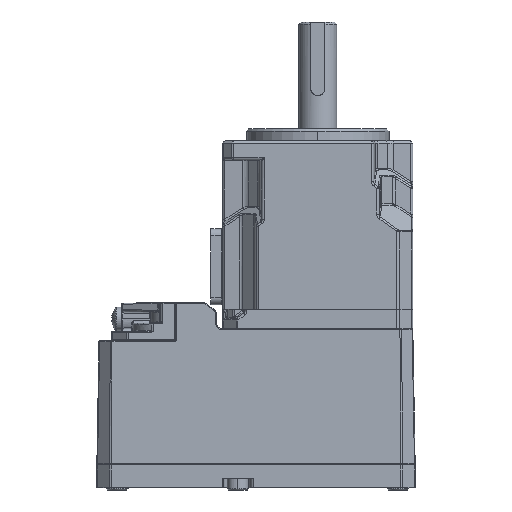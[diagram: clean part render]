
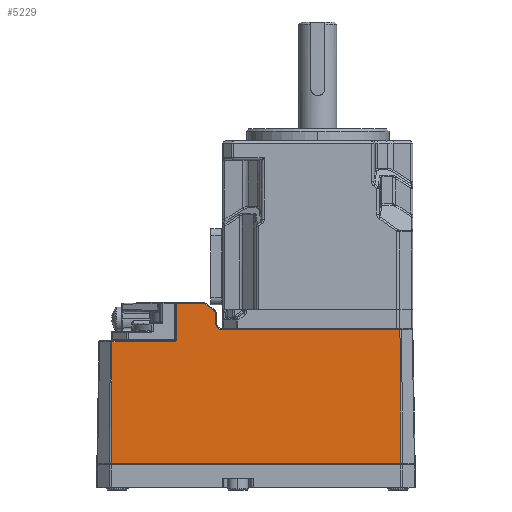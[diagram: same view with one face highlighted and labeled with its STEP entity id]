
A CAD part, left-side view. The second image highlights one B-rep face of the part: STEP entity #5229.
In plain terms, the highlighted planar face has unit normal (-1, 0, 0.018).
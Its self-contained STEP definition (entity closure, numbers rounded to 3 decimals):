
#173 = DIRECTION ( 'NONE',  ( -0.017, 0.007, -1. ) ) ;
#663 = CARTESIAN_POINT ( 'NONE',  ( -20., 0., -44.7 ) ) ;
#1199 = LINE ( 'NONE', #41409, #22582 ) ;
#1252 = CARTESIAN_POINT ( 'NONE',  ( -20.003, 0., -44.897 ) ) ;
#3086 = LINE ( 'NONE', #22280, #45761 ) ;
#3983 = AXIS2_PLACEMENT_3D ( 'NONE', #663, #18712, #14023 ) ;
#4138 = CARTESIAN_POINT ( 'NONE',  ( -20.003, -17.294, -44.897 ) ) ;
#4382 = VERTEX_POINT ( 'NONE', #27286 ) ;
#4420 = VERTEX_POINT ( 'NONE', #21986 ) ;
#4945 = EDGE_CURVE ( 'NONE', #4382, #46151, #34841, .T. ) ;
#5063 = ORIENTED_EDGE ( 'NONE', *, *, #21056, .T. ) ;
#5229 = ADVANCED_FACE ( 'NONE', ( #47985 ), #31745, .T. ) ;
#6564 = CARTESIAN_POINT ( 'NONE',  ( -20.045, 29.8, -47.272 ) ) ;
#6844 = CARTESIAN_POINT ( 'NONE',  ( -19.943, 21.578, -41.44 ) ) ;
#7163 = VERTEX_POINT ( 'NONE', #52032 ) ;
#7391 = DIRECTION ( 'NONE',  ( -0.017, 0., -1. ) ) ;
#7797 =( BOUNDED_CURVE ( )  B_SPLINE_CURVE ( 3, ( #44459, #58020, #17593, #8759 ),
 .UNSPECIFIED., .F., .T. ) 
 B_SPLINE_CURVE_WITH_KNOTS ( ( 4, 4 ),
 ( 2.531, 3.142 ),
 .UNSPECIFIED. ) 
 CURVE ( )  GEOMETRIC_REPRESENTATION_ITEM ( )  RATIONAL_B_SPLINE_CURVE ( ( 1., 0.969, 0.969, 1. ) ) 
 REPRESENTATION_ITEM ( '' )  );
#7890 = ORIENTED_EDGE ( 'NONE', *, *, #37694, .T. ) ;
#8157 = ORIENTED_EDGE ( 'NONE', *, *, #26620, .T. ) ;
#8759 = CARTESIAN_POINT ( 'NONE',  ( -19.907, 24.215, -39.397 ) ) ;
#8823 = EDGE_CURVE ( 'NONE', #7163, #45334, #23991, .T. ) ;
#9658 = VERTEX_POINT ( 'NONE', #45869 ) ;
#9703 = EDGE_CURVE ( 'NONE', #4420, #38933, #1199, .T. ) ;
#10709 = CARTESIAN_POINT ( 'NONE',  ( -20.047, 29.923, -47.396 ) ) ;
#10924 = DIRECTION ( 'NONE',  ( 0.017, 0.007, 1. ) ) ;
#11735 = VERTEX_POINT ( 'NONE', #18950 ) ;
#12445 = VERTEX_POINT ( 'NONE', #56119 ) ;
#13130 = DIRECTION ( 'NONE',  ( 0., 1., 0. ) ) ;
#13421 = ORIENTED_EDGE ( 'NONE', *, *, #8823, .T. ) ;
#13562 = LINE ( 'NONE', #31278, #38061 ) ;
#14023 = DIRECTION ( 'NONE',  ( 0.017, 0., 1. ) ) ;
#15396 = CARTESIAN_POINT ( 'NONE',  ( -19.943, 21.578, -41.444 ) ) ;
#16188 = LINE ( 'NONE', #29500, #37607 ) ;
#16939 = CARTESIAN_POINT ( 'NONE',  ( -19.995, 21.415, -44.434 ) ) ;
#17112 = VERTEX_POINT ( 'NONE', #45620 ) ;
#17448 = ORIENTED_EDGE ( 'NONE', *, *, #56722, .T. ) ;
#17593 = CARTESIAN_POINT ( 'NONE',  ( -19.907, 24.05, -39.397 ) ) ;
#17595 = DIRECTION ( 'NONE',  ( 0., 1., -0.009 ) ) ;
#18027 = ORIENTED_EDGE ( 'NONE', *, *, #35030, .T. ) ;
#18712 = DIRECTION ( 'NONE',  ( -1., 0., 0.017 ) ) ;
#18950 = CARTESIAN_POINT ( 'NONE',  ( -19.91, 23.756, -39.541 ) ) ;
#20334 = EDGE_CURVE ( 'NONE', #17112, #4382, #3086, .T. ) ;
#21056 = EDGE_CURVE ( 'NONE', #12445, #11735, #35572, .T. ) ;
#21074 = ORIENTED_EDGE ( 'NONE', *, *, #43612, .T. ) ;
#21375 = CARTESIAN_POINT ( 'NONE',  ( -20.003, 20.253, -44.897 ) ) ;
#21986 = CARTESIAN_POINT ( 'NONE',  ( -20.496, 43.498, -73.098 ) ) ;
#22051 = VERTEX_POINT ( 'NONE', #4138 ) ;
#22280 = CARTESIAN_POINT ( 'NONE',  ( -19.907, 29.8, -39.397 ) ) ;
#22582 = VECTOR ( 'NONE', #55268, 1000. ) ;
#23991 = LINE ( 'NONE', #15396, #46035 ) ;
#25969 = EDGE_CURVE ( 'NONE', #11735, #17112, #7797, .T. ) ;
#26620 = EDGE_CURVE ( 'NONE', #35447, #31334, #58023, .T. ) ;
#27072 = CARTESIAN_POINT ( 'NONE',  ( -20.042, 29.8, -47.097 ) ) ;
#27126 = ORIENTED_EDGE ( 'NONE', *, *, #25969, .T. ) ;
#27267 = EDGE_CURVE ( 'NONE', #46151, #35447, #46609, .T. ) ;
#27286 = CARTESIAN_POINT ( 'NONE',  ( -19.907, 29.8, -39.397 ) ) ;
#29500 = CARTESIAN_POINT ( 'NONE',  ( -19.998, -17.292, -44.575 ) ) ;
#29796 = VECTOR ( 'NONE', #33773, 1000. ) ;
#31278 = CARTESIAN_POINT ( 'NONE',  ( -19.995, 43.291, -44.387 ) ) ;
#31334 = VERTEX_POINT ( 'NONE', #40006 ) ;
#31435 = DIRECTION ( 'NONE',  ( 0.01, 0.819, 0.574 ) ) ;
#31745 = PLANE ( 'NONE',  #3983 ) ;
#31983 =( BOUNDED_CURVE ( )  B_SPLINE_CURVE ( 3, ( #6844, #52004, #38737, #56718 ),
 .UNSPECIFIED., .F., .T. ) 
 B_SPLINE_CURVE_WITH_KNOTS ( ( 4, 4 ),
 ( 1.625, 2.531 ),
 .UNSPECIFIED. ) 
 CURVE ( )  GEOMETRIC_REPRESENTATION_ITEM ( )  RATIONAL_B_SPLINE_CURVE ( ( 1., 0.933, 0.933, 1. ) ) 
 REPRESENTATION_ITEM ( '' )  );
#32233 =( BOUNDED_CURVE ( )  B_SPLINE_CURVE ( 3, ( #21375, #39413, #16939, #52953 ),
 .UNSPECIFIED., .F., .T. ) 
 B_SPLINE_CURVE_WITH_KNOTS ( ( 4, 4 ),
 ( 0., 1.516 ),
 .UNSPECIFIED. ) 
 CURVE ( )  GEOMETRIC_REPRESENTATION_ITEM ( )  RATIONAL_B_SPLINE_CURVE ( ( 1., 0.817, 0.817, 1. ) ) 
 REPRESENTATION_ITEM ( '' )  );
#33773 = DIRECTION ( 'NONE',  ( 0., 1., 0. ) ) ;
#34261 = CARTESIAN_POINT ( 'NONE',  ( -20., 29.8, -44.7 ) ) ;
#34841 = LINE ( 'NONE', #34261, #51974 ) ;
#35030 = EDGE_CURVE ( 'NONE', #38933, #22051, #16188, .T. ) ;
#35395 = ORIENTED_EDGE ( 'NONE', *, *, #20334, .T. ) ;
#35447 = VERTEX_POINT ( 'NONE', #44086 ) ;
#35572 = LINE ( 'NONE', #53558, #40767 ) ;
#37607 = VECTOR ( 'NONE', #10924, 1000. ) ;
#37694 = EDGE_CURVE ( 'NONE', #22051, #9658, #55863, .T. ) ;
#38061 = VECTOR ( 'NONE', #173, 1000. ) ;
#38132 = CARTESIAN_POINT ( 'NONE',  ( -20.047, 30.097, -47.397 ) ) ;
#38737 = CARTESIAN_POINT ( 'NONE',  ( -19.935, 21.713, -40.972 ) ) ;
#38788 = VECTOR ( 'NONE', #17595, 1000. ) ;
#38933 = VERTEX_POINT ( 'NONE', #51485 ) ;
#39413 = CARTESIAN_POINT ( 'NONE',  ( -20.003, 20.926, -44.897 ) ) ;
#40006 = CARTESIAN_POINT ( 'NONE',  ( -20.049, 43.313, -47.513 ) ) ;
#40767 = VECTOR ( 'NONE', #31435, 1000. ) ;
#41409 = CARTESIAN_POINT ( 'NONE',  ( -20.496, -17.499, -73.098 ) ) ;
#43311 = ORIENTED_EDGE ( 'NONE', *, *, #4945, .T. ) ;
#43612 = EDGE_CURVE ( 'NONE', #31334, #4420, #13562, .T. ) ;
#43910 = ORIENTED_EDGE ( 'NONE', *, *, #44074, .T. ) ;
#44074 = EDGE_CURVE ( 'NONE', #9658, #7163, #32233, .T. ) ;
#44086 = CARTESIAN_POINT ( 'NONE',  ( -20.047, 30.097, -47.397 ) ) ;
#44459 = CARTESIAN_POINT ( 'NONE',  ( -19.91, 23.756, -39.541 ) ) ;
#44524 = ORIENTED_EDGE ( 'NONE', *, *, #27267, .T. ) ;
#45334 = VERTEX_POINT ( 'NONE', #53167 ) ;
#45620 = CARTESIAN_POINT ( 'NONE',  ( -19.907, 24.215, -39.397 ) ) ;
#45761 = VECTOR ( 'NONE', #13130, 1000. ) ;
#45869 = CARTESIAN_POINT ( 'NONE',  ( -20.003, 20.253, -44.897 ) ) ;
#46035 = VECTOR ( 'NONE', #46138, 1000. ) ;
#46079 = ORIENTED_EDGE ( 'NONE', *, *, #9703, .T. ) ;
#46138 = DIRECTION ( 'NONE',  ( 0.017, 0.054, 0.998 ) ) ;
#46151 = VERTEX_POINT ( 'NONE', #27072 ) ;
#46609 =( BOUNDED_CURVE ( )  B_SPLINE_CURVE ( 3, ( #56127, #6564, #10709, #38132 ),
 .UNSPECIFIED., .F., .T. ) 
 B_SPLINE_CURVE_WITH_KNOTS ( ( 4, 4 ),
 ( 4.712, 6.274 ),
 .UNSPECIFIED. ) 
 CURVE ( )  GEOMETRIC_REPRESENTATION_ITEM ( )  RATIONAL_B_SPLINE_CURVE ( ( 1., 0.807, 0.807, 1. ) ) 
 REPRESENTATION_ITEM ( '' )  );
#47985 = FACE_OUTER_BOUND ( 'NONE', #55139, .T. ) ;
#51485 = CARTESIAN_POINT ( 'NONE',  ( -20.496, -17.498, -73.098 ) ) ;
#51974 = VECTOR ( 'NONE', #7391, 1000. ) ;
#52004 = CARTESIAN_POINT ( 'NONE',  ( -19.939, 21.592, -41.191 ) ) ;
#52032 = CARTESIAN_POINT ( 'NONE',  ( -19.984, 21.451, -43.762 ) ) ;
#52953 = CARTESIAN_POINT ( 'NONE',  ( -19.984, 21.451, -43.762 ) ) ;
#53167 = CARTESIAN_POINT ( 'NONE',  ( -19.943, 21.578, -41.44 ) ) ;
#53558 = CARTESIAN_POINT ( 'NONE',  ( -20.134, 5.393, -52.399 ) ) ;
#53884 = CARTESIAN_POINT ( 'NONE',  ( -20.042, -0.021, -47.135 ) ) ;
#55139 = EDGE_LOOP ( 'NONE', ( #21074, #46079, #18027, #7890, #43910, #13421, #17448, #5063, #27126, #35395, #43311, #44524, #8157 ) ) ;
#55268 = DIRECTION ( 'NONE',  ( 0., -1., 0. ) ) ;
#55863 = LINE ( 'NONE', #1252, #29796 ) ;
#56119 = CARTESIAN_POINT ( 'NONE',  ( -19.932, 21.918, -40.829 ) ) ;
#56127 = CARTESIAN_POINT ( 'NONE',  ( -20.042, 29.8, -47.097 ) ) ;
#56718 = CARTESIAN_POINT ( 'NONE',  ( -19.932, 21.918, -40.829 ) ) ;
#56722 = EDGE_CURVE ( 'NONE', #45334, #12445, #31983, .T. ) ;
#58020 = CARTESIAN_POINT ( 'NONE',  ( -19.908, 23.892, -39.446 ) ) ;
#58023 = LINE ( 'NONE', #53884, #38788 ) ;
